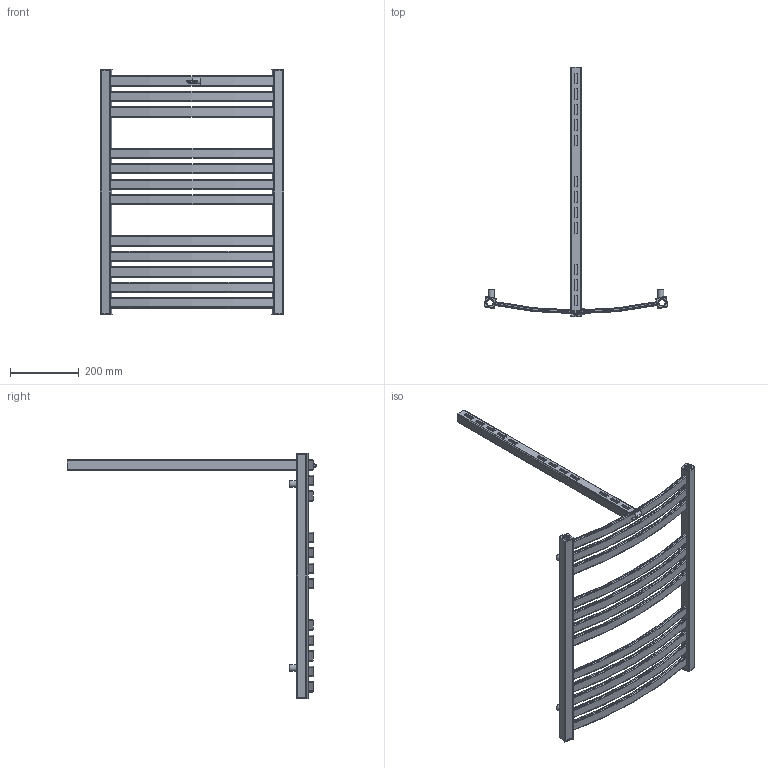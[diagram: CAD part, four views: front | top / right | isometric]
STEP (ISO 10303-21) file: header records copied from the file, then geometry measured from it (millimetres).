
FILE_DESCRIPTION( ( 'Unknown' ), '1' );
FILE_NAME( 'D:/Alplast sp. j/Witryna zespoBu - Projekty/Archiwum/Grzejniki Archiwum/Projekty/STANDARD/AK-EL/AK2-500EL.stp', 'Unknown', ( 'Unknown' ), ( 'Unknown' ), 'PSStep 10.1', 'Unknown', ' ' );
FILE_SCHEMA( ( 'AUTOMOTIVE_DESIGN { 1 0 10303 214 1 1 1 1 }' ) );
Length unit declared in the file: millimetre
Products named in the file (5): Assem1; zaslepka kwadrat otwor; tulejka kat 12stopni; kana³  poziomy lukowy L-500; AK2-EPEL
Bounding box: 534.79 x 726 x 715 mm (x, y, z)
Volume: 1014934.1 mm3; surface area: 1359939 mm2
Topology: 26 solids, 26 shells, 716 faces, 1982 edges, 1328 vertices
Faces by surface type: plane 322, cylinder 280, torus 114
Full cylindrical faces by diameter (mm): 16 x5, 18 x5, 18.631 x5, 23 x5
Entity records: 6754 total; most frequent: DIRECTION 986, CARTESIAN_POINT 931, ORIENTED_EDGE 892, EDGE_CURVE 446, AXIS2_PLACEMENT_3D 357, VERTEX_POINT 302, LINE 272, VECTOR 272
